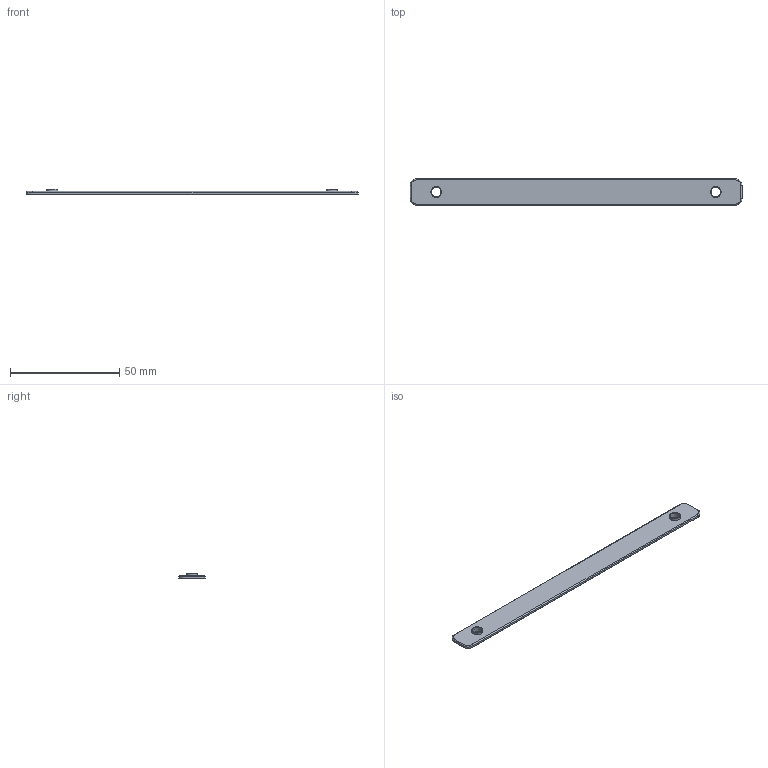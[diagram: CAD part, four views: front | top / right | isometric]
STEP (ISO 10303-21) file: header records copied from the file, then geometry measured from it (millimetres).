
FILE_DESCRIPTION(('Open CASCADE Model'),'2;1');
FILE_NAME('W-BAR-WL128-12','2026-10-19T21:23:52',('Author'),( 'Open CASCADE'),'Open CASCADE STEP processor 8.0','build123d', 'Unknown');
FILE_SCHEMA(('AUTOMOTIVE_DESIGN { 1 0 10303 214 1 1 1 1 }'));
Length unit declared in the file: millimetre
Products named in the file (2): W-BAR-WL128-12; brass_WL128-12__w
Assembly tree (1 placements, depth 2):
  W-BAR-WL128-12
    brass_WL128-12__w
Bounding box: 152 x 12 x 2.49 mm (x, y, z)
Volume: 2667.2 mm3; surface area: 4049.8 mm2
Topology: 1 solids, 1 shells, 32 faces, 68 edges, 40 vertices
Faces by surface type: plane 12, cylinder 12, cone 4, torus 4
Full cylindrical faces by diameter (mm): 4.3 x2, 5 x2
Entity records: 1768 total; most frequent: CARTESIAN_POINT 358, DIRECTION 264, ORIENTED_EDGE 136, PCURVE 136, DEFINITIONAL_REPRESENTATION 136, LINE 124, VECTOR 124, EDGE_CURVE 68
